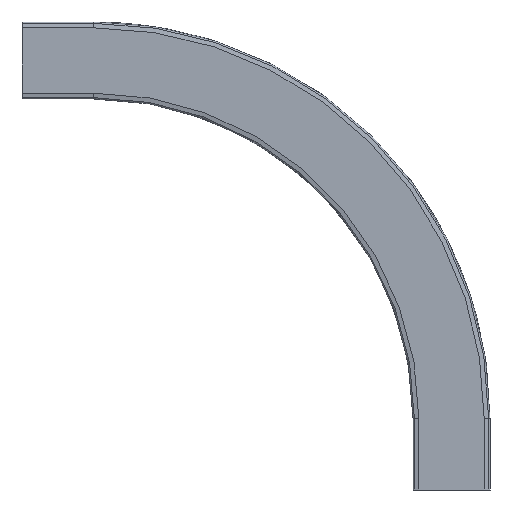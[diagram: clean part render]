
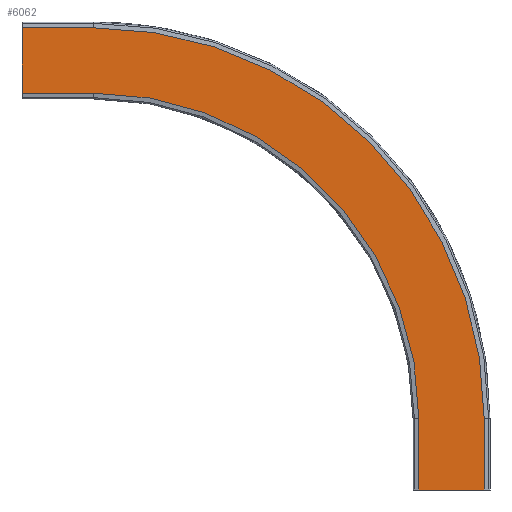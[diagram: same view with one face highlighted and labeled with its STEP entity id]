
A CAD part, front view. The second image highlights one B-rep face of the part: STEP entity #6062.
In plain terms, the highlighted planar face has unit normal (0, -1, 0).
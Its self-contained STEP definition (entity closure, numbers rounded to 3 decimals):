
#5693=CARTESIAN_POINT('',(36.5,-11.,0.0));
#5694=VERTEX_POINT('',#5693);
#5701=CARTESIAN_POINT('',(-36.5,-11.,0.0));
#5702=VERTEX_POINT('',#5701);
#5703=CARTESIAN_POINT('',(-36.5,-11.,0.0));
#5704=DIRECTION('',(1.0,0.0,0.0));
#5705=VECTOR('',#5704,73.);
#5706=LINE('',#5703,#5705);
#5707=EDGE_CURVE('',#5702,#5694,#5706,.T.);
#5773=CARTESIAN_POINT('',(-36.5,-11.,80.0));
#5774=VERTEX_POINT('',#5773);
#5788=CARTESIAN_POINT('',(-36.5,-11.,0.0));
#5789=DIRECTION('',(0.0,0.0,1.0));
#5790=VECTOR('',#5789,80.0);
#5791=LINE('',#5788,#5790);
#5792=EDGE_CURVE('',#5702,#5774,#5791,.T.);
#5802=CARTESIAN_POINT('',(36.5,-11.,80.0));
#5803=VERTEX_POINT('',#5802);
#5812=CARTESIAN_POINT('',(36.5,-11.,0.0));
#5813=DIRECTION('',(0.0,0.0,1.0));
#5814=VECTOR('',#5813,80.0);
#5815=LINE('',#5812,#5814);
#5816=EDGE_CURVE('',#5694,#5803,#5815,.T.);
#5889=CARTESIAN_POINT('',(-400.,-11.,516.5));
#5890=VERTEX_POINT('',#5889);
#5899=CARTESIAN_POINT('',(-400.0,-11.,80.0));
#5900=DIRECTION('',(0.0,-1.0,0.0));
#5901=DIRECTION('',(1.0,0.0,0.0));
#5902=AXIS2_PLACEMENT_3D('',#5899,#5900,#5901);
#5903=CIRCLE('',#5902,436.5);
#5904=EDGE_CURVE('',#5803,#5890,#5903,.T.);
#5956=CARTESIAN_POINT('',(-400.,-11.,443.5));
#5957=VERTEX_POINT('',#5956);
#5972=CARTESIAN_POINT('',(-400.0,-11.,80.0));
#5973=DIRECTION('',(0.0,-1.0,0.0));
#5974=DIRECTION('',(1.0,0.0,0.0));
#5975=AXIS2_PLACEMENT_3D('',#5972,#5973,#5974);
#5976=CIRCLE('',#5975,363.5);
#5977=EDGE_CURVE('',#5774,#5957,#5976,.T.);
#6016=CARTESIAN_POINT('',(-480.0,-11.,443.5));
#6017=VERTEX_POINT('',#6016);
#6026=CARTESIAN_POINT('',(-400.,-11.,443.5));
#6027=DIRECTION('',(-1.0,0.0,0.0));
#6028=VECTOR('',#6027,80.);
#6029=LINE('',#6026,#6028);
#6030=EDGE_CURVE('',#5957,#6017,#6029,.T.);
#6035=CARTESIAN_POINT('',(308.319,-11.,516.5));
#6036=DIRECTION('',(0.0,-1.0,0.0));
#6037=DIRECTION('',(1.0,0.0,0.0));
#6038=AXIS2_PLACEMENT_3D('',#6035,#6036,#6037);
#6039=PLANE('',#6038);
#6040=CARTESIAN_POINT('',(-480.,-11.,516.5));
#6041=VERTEX_POINT('',#6040);
#6042=CARTESIAN_POINT('',(-480.0,-11.,516.5));
#6043=DIRECTION('',(0.0,0.0,-1.0));
#6044=VECTOR('',#6043,73.);
#6045=LINE('',#6042,#6044);
#6046=EDGE_CURVE('',#6041,#6017,#6045,.T.);
#6047=ORIENTED_EDGE('',*,*,#6046,.T.);
#6048=ORIENTED_EDGE('',*,*,#6030,.F.);
#6049=ORIENTED_EDGE('',*,*,#5977,.F.);
#6050=ORIENTED_EDGE('',*,*,#5792,.F.);
#6051=ORIENTED_EDGE('',*,*,#5707,.T.);
#6052=ORIENTED_EDGE('',*,*,#5816,.T.);
#6053=ORIENTED_EDGE('',*,*,#5904,.T.);
#6054=CARTESIAN_POINT('',(-400.,-11.,516.5));
#6055=DIRECTION('',(-1.0,0.0,0.0));
#6056=VECTOR('',#6055,80.);
#6057=LINE('',#6054,#6056);
#6058=EDGE_CURVE('',#5890,#6041,#6057,.T.);
#6059=ORIENTED_EDGE('',*,*,#6058,.T.);
#6060=EDGE_LOOP('',(#6047,#6048,#6049,#6050,#6051,#6052,#6053,#6059));
#6061=FACE_OUTER_BOUND('',#6060,.T.);
#6062=ADVANCED_FACE('',(#6061),#6039,.T.);
